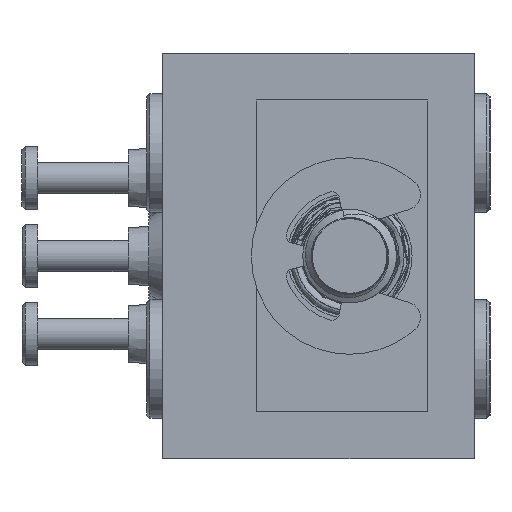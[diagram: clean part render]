
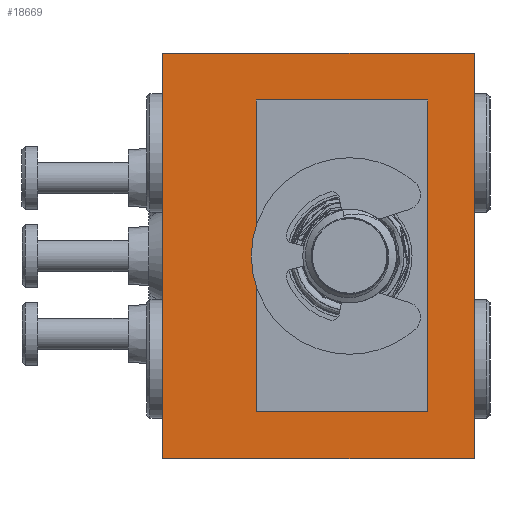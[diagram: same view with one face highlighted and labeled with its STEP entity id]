
A CAD part, left-side view. The second image highlights one B-rep face of the part: STEP entity #18669.
In plain terms, the highlighted planar face has unit normal (-1, 0, 0).
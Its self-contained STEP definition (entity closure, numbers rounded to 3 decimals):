
#35 = ORIENTED_EDGE ( 'NONE', *, *, #28660, .F. ) ;
#518 = DIRECTION ( 'NONE',  ( 0., 1., 0. ) ) ;
#1189 = EDGE_CURVE ( 'NONE', #10688, #15519, #9674, .T. ) ;
#2542 = ORIENTED_EDGE ( 'NONE', *, *, #23108, .T. ) ;
#3542 = LINE ( 'NONE', #29981, #33931 ) ;
#5082 = CARTESIAN_POINT ( 'NONE',  ( -25.5, 2., -5. ) ) ;
#5662 = DIRECTION ( 'NONE',  ( 0., 0., -1. ) ) ;
#5679 = VECTOR ( 'NONE', #13711, 1000. ) ;
#6180 = FACE_BOUND ( 'NONE', #21245, .T. ) ;
#7720 = DIRECTION ( 'NONE',  ( 0., -1., 0. ) ) ;
#7790 = ORIENTED_EDGE ( 'NONE', *, *, #13445, .F. ) ;
#9279 = ORIENTED_EDGE ( 'NONE', *, *, #20099, .F. ) ;
#9512 = LINE ( 'NONE', #20548, #18917 ) ;
#9674 = LINE ( 'NONE', #29922, #23983 ) ;
#9940 = AXIS2_PLACEMENT_3D ( 'NONE', #33717, #16637, #36591 ) ;
#10688 = VERTEX_POINT ( 'NONE', #16501 ) ;
#11440 = VECTOR ( 'NONE', #5662, 1000. ) ;
#11714 = CARTESIAN_POINT ( 'NONE',  ( -25.5, -3.5, -5. ) ) ;
#11917 = LINE ( 'NONE', #17273, #18618 ) ;
#12387 = EDGE_CURVE ( 'NONE', #27935, #23147, #20463, .T. ) ;
#13296 = LINE ( 'NONE', #5082, #5679 ) ;
#13392 = VERTEX_POINT ( 'NONE', #19815 ) ;
#13445 = EDGE_CURVE ( 'NONE', #15519, #36291, #33322, .T. ) ;
#13711 = DIRECTION ( 'NONE',  ( 0., 0., -1. ) ) ;
#14451 = CARTESIAN_POINT ( 'NONE',  ( -25.5, -5., 6.5 ) ) ;
#14457 = DIRECTION ( 'NONE',  ( 0., 0., 1. ) ) ;
#15519 = VERTEX_POINT ( 'NONE', #14451 ) ;
#15896 = EDGE_LOOP ( 'NONE', ( #31951, #7790, #28046, #2542 ) ) ;
#16501 = CARTESIAN_POINT ( 'NONE',  ( -25.5, 5., 6.5 ) ) ;
#16513 = PLANE ( 'NONE',  #9940 ) ;
#16637 = DIRECTION ( 'NONE',  ( 1., 0., 0. ) ) ;
#17273 = CARTESIAN_POINT ( 'NONE',  ( -25.5, 2., -5. ) ) ;
#17432 = ORIENTED_EDGE ( 'NONE', *, *, #12387, .F. ) ;
#17775 = VERTEX_POINT ( 'NONE', #33026 ) ;
#18020 = ORIENTED_EDGE ( 'NONE', *, *, #36269, .F. ) ;
#18618 = VECTOR ( 'NONE', #20779, 1000. ) ;
#18669 = ADVANCED_FACE ( 'NONE', ( #6180, #35660 ), #16513, .F. ) ;
#18917 = VECTOR ( 'NONE', #518, 1000. ) ;
#19815 = CARTESIAN_POINT ( 'NONE',  ( -25.5, 2., 5. ) ) ;
#20099 = EDGE_CURVE ( 'NONE', #17775, #27935, #11917, .T. ) ;
#20234 = VERTEX_POINT ( 'NONE', #29498 ) ;
#20463 = LINE ( 'NONE', #11714, #27133 ) ;
#20548 = CARTESIAN_POINT ( 'NONE',  ( -25.5, 2., 5. ) ) ;
#20779 = DIRECTION ( 'NONE',  ( 0., -1., 0. ) ) ;
#20851 = CARTESIAN_POINT ( 'NONE',  ( -25.5, -3.5, -5. ) ) ;
#21245 = EDGE_LOOP ( 'NONE', ( #17432, #9279, #18020, #35 ) ) ;
#21712 = EDGE_CURVE ( 'NONE', #20234, #36291, #25214, .T. ) ;
#23108 = EDGE_CURVE ( 'NONE', #10688, #20234, #3542, .T. ) ;
#23147 = VERTEX_POINT ( 'NONE', #33568 ) ;
#23983 = VECTOR ( 'NONE', #26881, 1000. ) ;
#24840 = CARTESIAN_POINT ( 'NONE',  ( -25.5, 5., -6.5 ) ) ;
#25214 = LINE ( 'NONE', #24840, #33674 ) ;
#26881 = DIRECTION ( 'NONE',  ( 0., -1., 0. ) ) ;
#27133 = VECTOR ( 'NONE', #14457, 1000. ) ;
#27935 = VERTEX_POINT ( 'NONE', #20851 ) ;
#28046 = ORIENTED_EDGE ( 'NONE', *, *, #1189, .F. ) ;
#28660 = EDGE_CURVE ( 'NONE', #23147, #13392, #9512, .T. ) ;
#29498 = CARTESIAN_POINT ( 'NONE',  ( -25.5, 5., -6.5 ) ) ;
#29922 = CARTESIAN_POINT ( 'NONE',  ( -25.5, 5., 6.5 ) ) ;
#29981 = CARTESIAN_POINT ( 'NONE',  ( -25.5, 5., 6.5 ) ) ;
#30858 = CARTESIAN_POINT ( 'NONE',  ( -25.5, -5., -6.5 ) ) ;
#31951 = ORIENTED_EDGE ( 'NONE', *, *, #21712, .T. ) ;
#33026 = CARTESIAN_POINT ( 'NONE',  ( -25.5, 2., -5. ) ) ;
#33322 = LINE ( 'NONE', #34249, #11440 ) ;
#33441 = DIRECTION ( 'NONE',  ( 0., 0., -1. ) ) ;
#33568 = CARTESIAN_POINT ( 'NONE',  ( -25.5, -3.5, 5. ) ) ;
#33674 = VECTOR ( 'NONE', #7720, 1000. ) ;
#33717 = CARTESIAN_POINT ( 'NONE',  ( -25.5, 5., 6.5 ) ) ;
#33931 = VECTOR ( 'NONE', #33441, 1000. ) ;
#34249 = CARTESIAN_POINT ( 'NONE',  ( -25.5, -5., 6.5 ) ) ;
#35660 = FACE_OUTER_BOUND ( 'NONE', #15896, .T. ) ;
#36269 = EDGE_CURVE ( 'NONE', #13392, #17775, #13296, .T. ) ;
#36291 = VERTEX_POINT ( 'NONE', #30858 ) ;
#36591 = DIRECTION ( 'NONE',  ( 0., 1., 0. ) ) ;
